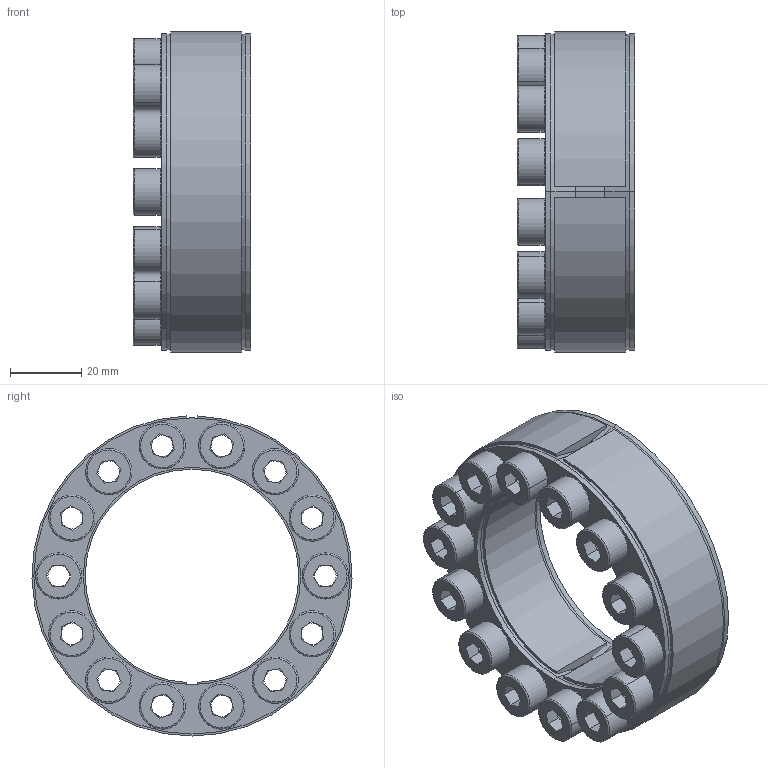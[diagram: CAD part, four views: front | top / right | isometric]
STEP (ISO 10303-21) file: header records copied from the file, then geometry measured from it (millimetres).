
FILE_DESCRIPTION (( 'STEP AP203' ), '1' );
FILE_NAME ('D1-60-90 Assy.STEP', '2017-10-11T05:05:19', ( 'MYCOM' ), ( '' ), 'SwSTEP 2.0', 'SolidWorks 2015', '' );
FILE_SCHEMA (( 'CONFIG_CONTROL_DESIGN' ));
Length unit declared in the file: millimetre
Products named in the file (1): D1-60-90 Assy
Bounding box: 33.14 x 89.99 x 89.97 mm (x, y, z)
Surface area: 41354 mm2 (no closed solid volume)
Topology: 0 solids, 22 shells, 344 faces, 914 edges, 572 vertices
Faces by surface type: plane 176, cylinder 103, torus 56, cone 9
Entity records: 10821 total; most frequent: DIRECTION 2037, CARTESIAN_POINT 1879, ORIENTED_EDGE 1630, EDGE_CURVE 914, AXIS2_PLACEMENT_3D 788, VERTEX_POINT 572, LINE 461, VECTOR 461
